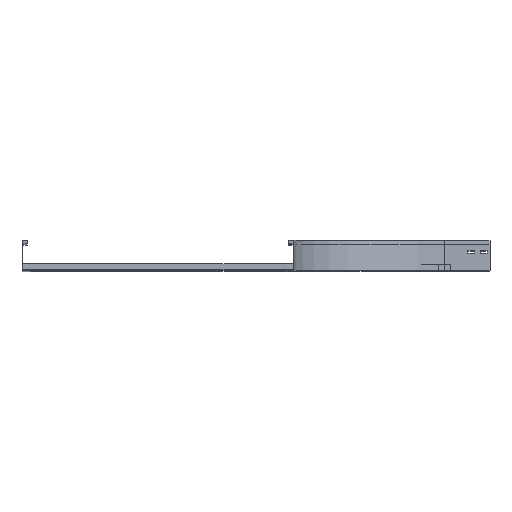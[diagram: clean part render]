
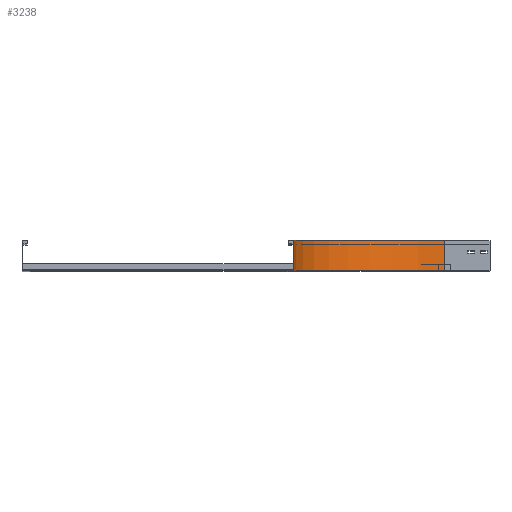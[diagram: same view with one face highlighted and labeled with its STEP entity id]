
A CAD part, top view. The second image highlights one B-rep face of the part: STEP entity #3238.
In plain terms, the highlighted cylindrical face has radius 500 mm (diameter 1000 mm), a partial arc.
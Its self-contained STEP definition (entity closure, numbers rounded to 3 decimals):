
#2 = CARTESIAN_POINT ( 'NONE',  ( 0., 0., -150. ) ) ;
#327 = AXIS2_PLACEMENT_3D ( 'NONE', #915, #3656, #1649 ) ;
#508 = EDGE_CURVE ( 'NONE', #653, #1963, #3745, .T. ) ;
#556 = ORIENTED_EDGE ( 'NONE', *, *, #1242, .F. ) ;
#653 = VERTEX_POINT ( 'NONE', #3227 ) ;
#754 = FACE_OUTER_BOUND ( 'NONE', #2779, .T. ) ;
#778 = AXIS2_PLACEMENT_3D ( 'NONE', #1393, #4021, #4041 ) ;
#861 = CARTESIAN_POINT ( 'NONE',  ( 0., 0., -150. ) ) ;
#896 = CARTESIAN_POINT ( 'NONE',  ( 0., 100., -150. ) ) ;
#915 = CARTESIAN_POINT ( 'NONE',  ( 500., 0., -150. ) ) ;
#1162 = DIRECTION ( 'NONE',  ( 0., 0., -1. ) ) ;
#1172 = ORIENTED_EDGE ( 'NONE', *, *, #508, .T. ) ;
#1202 = CYLINDRICAL_SURFACE ( 'NONE', #1529, 500. ) ;
#1242 = EDGE_CURVE ( 'NONE', #3495, #3264, #4113, .T. ) ;
#1393 = CARTESIAN_POINT ( 'NONE',  ( 500., 100., -150. ) ) ;
#1430 = CARTESIAN_POINT ( 'NONE',  ( 500., 100., -650. ) ) ;
#1529 = AXIS2_PLACEMENT_3D ( 'NONE', #3500, #2228, #1162 ) ;
#1649 = DIRECTION ( 'NONE',  ( -1., 0., 0. ) ) ;
#1836 = DIRECTION ( 'NONE',  ( 0., 1., 0. ) ) ;
#1957 = EDGE_CURVE ( 'NONE', #3264, #1963, #2241, .T. ) ;
#1963 = VERTEX_POINT ( 'NONE', #1430 ) ;
#2093 = DIRECTION ( 'NONE',  ( 0., 1., 0. ) ) ;
#2228 = DIRECTION ( 'NONE',  ( 0., -1., 0. ) ) ;
#2241 = CIRCLE ( 'NONE', #778, 500. ) ;
#2293 = EDGE_CURVE ( 'NONE', #3495, #653, #3599, .T. ) ;
#2491 = ORIENTED_EDGE ( 'NONE', *, *, #1957, .F. ) ;
#2663 = VECTOR ( 'NONE', #1836, 1000. ) ;
#2755 = CARTESIAN_POINT ( 'NONE',  ( 500., 0., -650. ) ) ;
#2779 = EDGE_LOOP ( 'NONE', ( #2491, #556, #3202, #1172 ) ) ;
#3202 = ORIENTED_EDGE ( 'NONE', *, *, #2293, .T. ) ;
#3227 = CARTESIAN_POINT ( 'NONE',  ( 500., 0., -650. ) ) ;
#3238 = ADVANCED_FACE ( 'NONE', ( #754 ), #1202, .F. ) ;
#3264 = VERTEX_POINT ( 'NONE', #896 ) ;
#3495 = VERTEX_POINT ( 'NONE', #2 ) ;
#3500 = CARTESIAN_POINT ( 'NONE',  ( 500., 0., -150. ) ) ;
#3599 = CIRCLE ( 'NONE', #327, 500. ) ;
#3656 = DIRECTION ( 'NONE',  ( 0., -1., 0. ) ) ;
#3745 = LINE ( 'NONE', #2755, #4035 ) ;
#4021 = DIRECTION ( 'NONE',  ( 0., -1., 0. ) ) ;
#4035 = VECTOR ( 'NONE', #2093, 1000. ) ;
#4041 = DIRECTION ( 'NONE',  ( -1., 0., 0. ) ) ;
#4113 = LINE ( 'NONE', #861, #2663 ) ;
